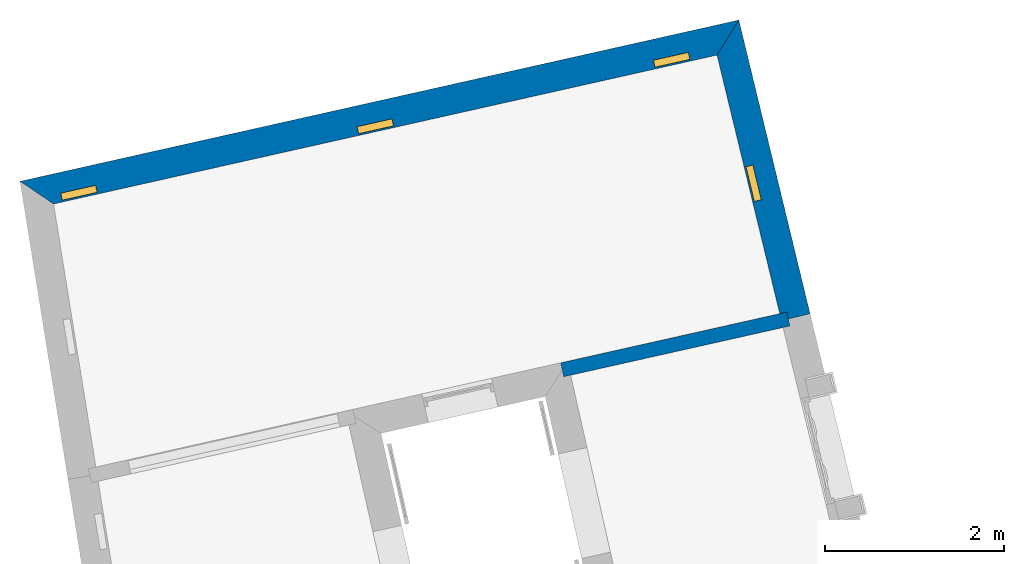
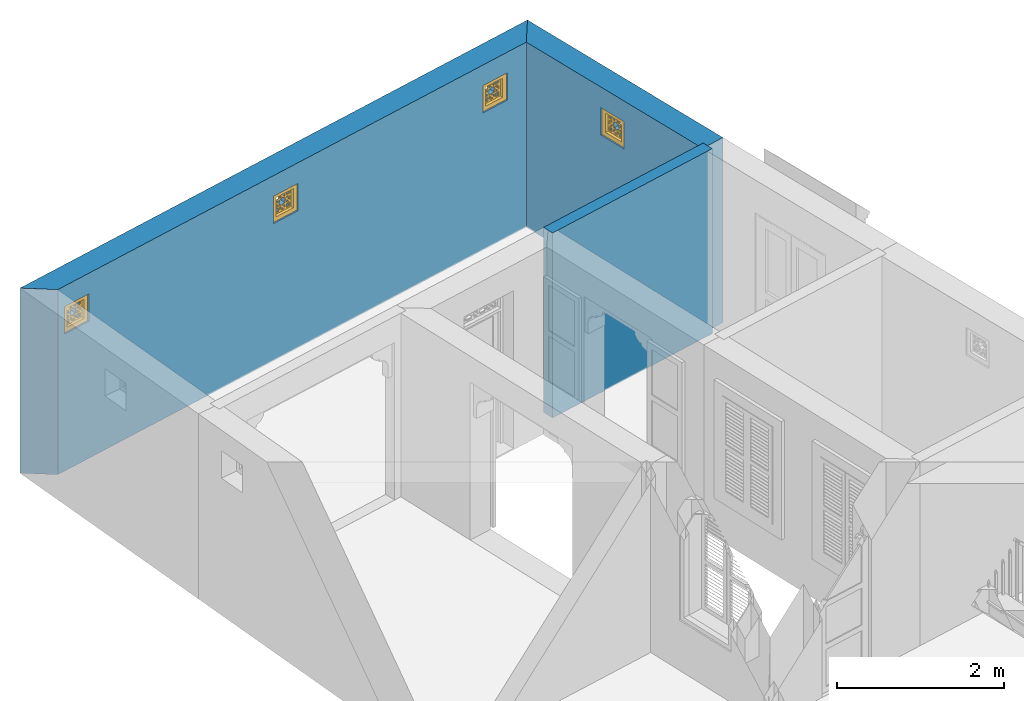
# One storey, part 12 of 13: 4 windows, 3 walls, 4 openings.
"""IFC4 building model written with IfcOpenShell, lengths in metres."""

from ifc_helpers import new_model, si_unit, frame, origin, origin_with_axes, place, context, subcontext, project, spatial, polyline, outline, extrude, faceted_brep, source, transform, mapped, material, layer, layer_set, layer_usage, type_object, type_shapes, element, fill, save


model = new_model("IFC4")

# Units and contexts
model_context = context("Model", 3, world=origin_with_axes())
body_context = subcontext(model_context, "Body", "Model", "MODEL_VIEW")
ifc_project = project(units=[si_unit("PLANEANGLEUNIT", "RADIAN"), si_unit("MASSUNIT", "GRAM", prefix="KILO"), si_unit("FORCEUNIT", "NEWTON", prefix="KILO"), si_unit("LENGTHUNIT", "METRE"), si_unit("AREAUNIT", "SQUARE_METRE"), si_unit("VOLUMEUNIT", "CUBIC_METRE")], contexts=[model_context, model_context])

# Site, building, storey
site_placement = place(None, origin_with_axes())
site = spatial("IfcSite", under=ifc_project, at=site_placement, Name="Site plot-10", CompositionType="ELEMENT")
building_placement = place(None, origin_with_axes())
building = spatial("IfcBuilding", under=site, at=building_placement, Name="Building plot-10", CompositionType="ELEMENT")
storey_placement = place(None, origin_with_axes())
storey = spatial("IfcBuildingStorey", under=building, at=storey_placement, Name="plot-10 0", CompositionType="ELEMENT", Elevation=0.0)

# Wall, opening, window
ifc_material_1 = material(Name="Masonry")
ifc_layer_1 = layer(ifc_material_1, 0.33, ventilated=False)
ifc_layer_set_1 = layer_set([ifc_layer_1], Name="exterior_0.08_0.25")
ifc_layer_usage_1 = layer_usage(ifc_layer_set_1, "AXIS2", "POSITIVE", -0.25)
wall_type_1 = type_object("IfcWallType", Name="exterior_0.08_0.25", PredefinedType="SOLIDWALL", material=ifc_layer_set_1)
wall_1_placement = place(storey_placement, frame((-16.6872846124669, 18.2683380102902, 0.0), z_axis=(0.0, 0.0, 1.0), x_axis=(-0.235675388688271, 0.9718318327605, 0.0)))
wall_1 = element("IfcWall", 1, at=wall_1_placement, inside=storey, type_object=wall_type_1, material=ifc_layer_usage_1, Name="exterior", context=body_context, shape_type="SweptSolid", body=[
    extrude(outline(polyline([(1.76349185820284e-15, 0.0800000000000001), (-1.70553760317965e-15, -0.25), (3.38324971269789, -0.249999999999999), (3.0588775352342, 0.0800000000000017), (1.76349185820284e-15, 0.0800000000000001)])), origin_with_axes(), (0.0, 0.0, 1.0), 2.7),
])
opening_1_placement = place(wall_1_placement, frame((1.36875660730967, 0.0, 2.0)))
opening_1 = element("IfcOpeningElement", 2, at=opening_1_placement, cuts=wall_1, Name="My Opening", ObjectType="Opening", context=body_context, shape_type="SweptSolid", body=[
    extrude(outline(polyline([(0.0, -0.270000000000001), (0.399999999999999, -0.270000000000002), (0.399999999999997, 1.1), (-1.77635683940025e-15, 1.1), (0.0, -0.270000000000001)])), origin_with_axes(), (0.0, 0.0, 1.0), 0.4),
])
window_type = type_object("IfcWindowType", Name="barred_window", PartitioningType="DOUBLE_PANEL_HORIZONTAL", PredefinedType="NOTDEFINED")
shared_shape = source(origin(), body_context, "Body", "Brep", [
    faceted_brep([(0.4, 0.25, 0.4), (0.0, 0.25, 0.4), (0.06, 0.25, 0.34), (0.34, 0.25, 0.34), (0.06, 0.33, 0.34), (0.34, 0.33, 0.34), (0.34, 0.25, 0.06), (0.4, 0.25, 0.0), (0.4, 0.33, 0.4), (0.0, 0.33, 0.4), (0.0, 0.25, 0.0), (0.06, 0.25, 0.06), (0.06, 0.33, 0.06), (0.34, 0.33, 0.06), (0.4, 0.33, 0.0), (0.0, 0.33, 0.0), (0.136152, 0.28, 0.08), (0.08, 0.28, 0.08), (0.06, 0.28, 0.06), (0.136152, 0.28, 0.06), (0.136152, 0.29, 0.08), (0.08, 0.29, 0.08), (0.06, 0.28, 0.136152), (0.08, 0.28, 0.136152), (0.06, 0.29, 0.06), (0.136152, 0.29, 0.06), (0.170294, 0.28, 0.08), (0.170294, 0.28, 0.06), (0.136152, 0.28, 0.136152), (0.136152, 0.29, 0.136152), (0.08, 0.29, 0.136152), (0.06, 0.29, 0.136152), (0.08, 0.28, 0.170294), (0.06, 0.28, 0.170294), (0.170294, 0.29, 0.06), (0.229706, 0.28, 0.08), (0.229706, 0.28, 0.06), (0.156152, 0.28, 0.094142), (0.156152, 0.28, 0.136152), (0.185858, 0.28, 0.123848), (0.185858, 0.29, 0.123848), (0.156152, 0.29, 0.094142), (0.156152, 0.29, 0.136152), (0.229706, 0.29, 0.08), (0.170294, 0.29, 0.08), (0.2, 0.28, 0.109706), (0.2, 0.29, 0.109706), (0.06, 0.29, 0.170294), (0.094142, 0.28, 0.156152), (0.08, 0.28, 0.229706), (0.06, 0.28, 0.229706), (0.229706, 0.29, 0.06), (0.263848, 0.28, 0.08), (0.263848, 0.28, 0.06), (0.156152, 0.28, 0.156152), (0.136152, 0.28, 0.156152), (0.173553, 0.28, 0.136152), (0.173553, 0.29, 0.136152), (0.156152, 0.29, 0.156152), (0.136152, 0.29, 0.156152), (0.094142, 0.29, 0.156152), (0.08, 0.29, 0.170294), (0.06, 0.29, 0.229706), (0.123848, 0.28, 0.185858), (0.109706, 0.28, 0.2), (0.08, 0.29, 0.229706), (0.08, 0.28, 0.263848), (0.06, 0.28, 0.263848), (0.263848, 0.29, 0.06), (0.2, 0.28, 0.13799), (0.214142, 0.28, 0.123848), (0.34, 0.28, 0.06), (0.32, 0.28, 0.08), (0.181838, 0.28, 0.156152), (0.136152, 0.28, 0.173553), (0.156152, 0.28, 0.181838), (0.181838, 0.29, 0.156152), (0.2, 0.29, 0.13799), (0.214142, 0.29, 0.123848), (0.136152, 0.29, 0.173553), (0.156152, 0.29, 0.181838), (0.243848, 0.28, 0.094142), (0.243848, 0.29, 0.094142), (0.263848, 0.28, 0.136152), (0.263848, 0.29, 0.08), (0.263848, 0.29, 0.136152), (0.32, 0.29, 0.08), (0.243848, 0.28, 0.136152), (0.243848, 0.29, 0.136152), (0.06, 0.29, 0.263848), (0.123848, 0.29, 0.185858), (0.13799, 0.28, 0.2), (0.123848, 0.28, 0.214142), (0.109706, 0.29, 0.2), (0.094142, 0.28, 0.243848), (0.08, 0.28, 0.32), (0.06, 0.28, 0.34), (0.34, 0.29, 0.06), (0.218162, 0.28, 0.156152), (0.226447, 0.28, 0.136152), (0.34, 0.28, 0.229706), (0.32, 0.28, 0.229706), (0.32, 0.28, 0.170294), (0.32, 0.28, 0.136152), (0.218162, 0.29, 0.156152), (0.226447, 0.29, 0.136152), (0.13799, 0.29, 0.2), (0.32, 0.29, 0.136152), (0.08, 0.29, 0.263848), (0.06, 0.29, 0.34), (0.136152, 0.28, 0.226447), (0.156152, 0.28, 0.218162), (0.094142, 0.29, 0.243848), (0.123848, 0.29, 0.214142), (0.136152, 0.28, 0.243848), (0.136152, 0.28, 0.263848), (0.08, 0.29, 0.32), (0.136152, 0.28, 0.34), (0.136152, 0.28, 0.32), (0.34, 0.29, 0.229706), (0.243848, 0.28, 0.156152), (0.263848, 0.28, 0.156152), (0.34, 0.28, 0.263848), (0.32, 0.28, 0.263848), (0.32, 0.29, 0.229706), (0.32, 0.29, 0.170294), (0.290294, 0.28, 0.2), (0.276152, 0.28, 0.185858), (0.305858, 0.28, 0.156152), (0.243848, 0.29, 0.156152), (0.263848, 0.29, 0.156152), (0.305858, 0.29, 0.156152), (0.276152, 0.29, 0.185858), (0.290294, 0.29, 0.2), (0.136152, 0.29, 0.34), (0.136152, 0.29, 0.226447), (0.156152, 0.29, 0.218162), (0.156152, 0.28, 0.243848), (0.136152, 0.29, 0.243848), (0.156152, 0.28, 0.263848), (0.136152, 0.29, 0.263848), (0.136152, 0.29, 0.32), (0.170294, 0.28, 0.32), (0.170294, 0.28, 0.34), (0.34, 0.29, 0.263848), (0.243848, 0.28, 0.181838), (0.263848, 0.28, 0.173553), (0.34, 0.28, 0.34), (0.32, 0.28, 0.32), (0.305858, 0.28, 0.243848), (0.276152, 0.28, 0.214142), (0.26201, 0.28, 0.2), (0.243848, 0.29, 0.181838), (0.263848, 0.29, 0.173553), (0.26201, 0.29, 0.2), (0.276152, 0.29, 0.214142), (0.32, 0.29, 0.263848), (0.170294, 0.29, 0.34), (0.156152, 0.29, 0.243848), (0.173553, 0.28, 0.263848), (0.181838, 0.28, 0.243848), (0.156152, 0.28, 0.305858), (0.229706, 0.28, 0.32), (0.229706, 0.28, 0.34), (0.34, 0.29, 0.34), (0.263848, 0.28, 0.34), (0.263848, 0.28, 0.32), (0.32, 0.29, 0.32), (0.263848, 0.28, 0.263848), (0.263848, 0.28, 0.243848), (0.305858, 0.29, 0.243848), (0.263848, 0.28, 0.226447), (0.243848, 0.28, 0.218162), (0.243848, 0.29, 0.218162), (0.263848, 0.29, 0.226447), (0.156152, 0.29, 0.263848), (0.170294, 0.29, 0.32), (0.229706, 0.29, 0.34), (0.181838, 0.29, 0.243848), (0.173553, 0.29, 0.263848), (0.185858, 0.28, 0.276152), (0.2, 0.28, 0.26201), (0.156152, 0.29, 0.305858), (0.229706, 0.29, 0.32), (0.263848, 0.29, 0.34), (0.263848, 0.29, 0.32), (0.263848, 0.29, 0.263848), (0.243848, 0.28, 0.243848), (0.243848, 0.28, 0.263848), (0.263848, 0.29, 0.243848), (0.243848, 0.29, 0.243848), (0.2, 0.29, 0.26201), (0.185858, 0.29, 0.276152), (0.214142, 0.28, 0.276152), (0.218162, 0.28, 0.243848), (0.226447, 0.28, 0.263848), (0.243848, 0.28, 0.305858), (0.2, 0.28, 0.290294), (0.2, 0.29, 0.290294), (0.243848, 0.29, 0.263848), (0.218162, 0.29, 0.243848), (0.214142, 0.29, 0.276152), (0.226447, 0.29, 0.263848), (0.243848, 0.29, 0.305858)], [[[0, 1, 2, 3]], [[3, 2, 4, 5]], [[3, 6, 7, 0]], [[1, 0, 8, 9]], [[1, 10, 11, 2]], [[2, 11, 12, 4]], [[9, 8, 5, 4]], [[6, 3, 5, 13]], [[6, 11, 10, 7]], [[0, 7, 14, 8]], [[10, 1, 9, 15]], [[11, 6, 13, 12]], [[4, 12, 15, 9]], [[8, 14, 13, 5]], [[7, 10, 15, 14]], [[12, 13, 14, 15]], [[16, 17, 18, 19]], [[17, 16, 20, 21]], [[22, 18, 17, 23]], [[19, 18, 24, 25]], [[26, 16, 19, 27]], [[16, 28, 29, 20]], [[21, 20, 25, 24]], [[23, 17, 21, 30]], [[18, 22, 31, 24]], [[23, 32, 33, 22]], [[27, 19, 25, 34]], [[35, 26, 27, 36]], [[28, 16, 37, 38]], [[37, 39, 40, 41]], [[38, 37, 41, 42]], [[20, 29, 42, 41]], [[26, 35, 43, 44]], [[45, 26, 44, 46]], [[20, 44, 34, 25]], [[28, 23, 30, 29]], [[24, 31, 30, 21]], [[22, 33, 47, 31]], [[48, 32, 23]], [[32, 49, 50, 33]], [[36, 27, 34, 51]], [[39, 37, 26, 45]], [[52, 35, 36, 53]], [[38, 54, 55, 28]], [[39, 56, 57, 40]], [[41, 40, 46, 44]], [[56, 38, 42, 57]], [[58, 42, 29, 59]], [[35, 45, 46, 43]], [[44, 43, 51, 34]], [[23, 28, 55, 48]], [[29, 30, 60, 59]], [[61, 30, 31, 47]], [[33, 50, 62, 47]], [[48, 63, 64, 32]], [[49, 32, 61, 65]], [[49, 66, 67, 50]], [[53, 36, 51, 68]], [[69, 39, 45, 70]], [[53, 71, 72, 52]], [[73, 54, 38, 56]], [[74, 55, 54, 75]], [[56, 39, 69, 73]], [[40, 57, 76, 77]], [[40, 77, 78, 46]], [[58, 76, 57, 42]], [[59, 79, 80, 58]], [[45, 35, 81, 70]], [[43, 46, 78, 82]], [[83, 52, 84, 85]], [[82, 84, 43]], [[52, 72, 86, 84]], [[43, 84, 68, 51]], [[44, 20, 41]], [[70, 81, 82, 78]], [[81, 87, 88, 82]], [[48, 55, 59, 60]], [[61, 60, 30]], [[65, 61, 47, 62]], [[50, 67, 89, 62]], [[63, 48, 60, 90]], [[63, 91, 92, 64]], [[32, 64, 93, 61]], [[64, 49, 65, 93]], [[94, 66, 49]], [[66, 95, 96, 67]], [[71, 53, 68, 97]], [[98, 69, 70, 99]], [[81, 52, 83, 87]], [[72, 71, 100]], [[100, 101, 102]], [[103, 72, 100]], [[100, 102, 103]], [[54, 73, 76, 58]], [[55, 74, 79, 59]], [[75, 54, 58, 80]], [[63, 74, 75, 91]], [[73, 69, 77, 76]], [[77, 104, 105, 78]], [[79, 90, 106, 80]], [[84, 82, 88, 85]], [[103, 83, 85, 107]], [[72, 103, 107, 86]], [[97, 68, 84, 86]], [[99, 70, 78, 105]], [[87, 99, 105, 88]], [[90, 60, 61, 93]], [[108, 65, 62, 89]], [[67, 96, 109, 89]], [[74, 63, 90, 79]], [[110, 92, 91, 111]], [[49, 64, 92, 94]], [[93, 65, 112, 113]], [[94, 114, 115, 66]], [[95, 66, 108, 116]], [[117, 96, 95, 118]], [[100, 71, 97, 119]], [[69, 98, 104, 77]], [[99, 87, 120, 98]], [[87, 83, 121, 120]], [[101, 100, 122, 123]], [[102, 101, 124, 125]], [[121, 83, 103]], [[103, 102, 126]], [[126, 127, 128]], [[128, 121, 103]], [[103, 126, 128]], [[91, 75, 80, 106]], [[88, 105, 104, 129]], [[106, 90, 93, 113]], [[85, 88, 129, 130]], [[107, 85, 130]], [[131, 132, 133]], [[107, 130, 131]], [[133, 125, 107]], [[107, 131, 133]], [[124, 119, 97]], [[97, 86, 107]], [[107, 125, 124]], [[97, 107, 124]], [[108, 112, 65]], [[116, 108, 89, 109]], [[96, 117, 134, 109]], [[92, 110, 135, 113]], [[111, 91, 106, 136]], [[114, 110, 111, 137]], [[94, 92, 113, 112]], [[114, 94, 112, 138]], [[114, 137, 139, 115]], [[66, 115, 140, 108]], [[118, 95, 116, 141]], [[118, 142, 143, 117]], [[122, 100, 119, 144]], [[98, 120, 129, 104]], [[145, 120, 121, 146]], [[122, 147, 148, 123]], [[123, 149, 101]], [[101, 126, 133, 124]], [[126, 102, 125, 133]], [[127, 126, 150, 151]], [[128, 127, 132, 131]], [[121, 128, 131, 130]], [[113, 135, 136, 106]], [[129, 152, 153, 130]], [[133, 132, 154, 155]], [[119, 124, 156, 144]], [[138, 112, 108, 140]], [[109, 134, 141, 116]], [[117, 143, 157, 134]], [[110, 114, 138, 135]], [[137, 111, 136, 158]], [[159, 139, 137, 160]], [[118, 115, 139, 161]], [[115, 118, 141, 140]], [[161, 142, 118]], [[162, 163, 143, 142]], [[147, 122, 144, 164]], [[120, 145, 152, 129]], [[146, 121, 130, 153]], [[146, 127, 151, 145]], [[147, 165, 166, 148]], [[123, 148, 167, 156]], [[149, 123, 168, 169]], [[149, 150, 126, 101]], [[155, 170, 124, 133]], [[151, 150, 171, 172]], [[127, 146, 153, 132]], [[135, 138, 158, 136]], [[132, 153, 152, 154]], [[155, 154, 173, 174]], [[170, 156, 124]], [[164, 144, 156, 167]], [[158, 138, 140, 175]], [[176, 141, 134, 157]], [[143, 163, 177, 157]], [[160, 137, 158, 178]], [[139, 159, 179, 175]], [[180, 159, 160, 181]], [[161, 139, 175, 182]], [[140, 141, 182, 175]], [[166, 165, 163, 162]], [[162, 142, 176, 183]], [[165, 147, 164, 184]], [[145, 151, 154, 152]], [[148, 166, 185, 167]], [[156, 186, 168, 123]], [[187, 169, 168, 188]], [[149, 169, 189, 170]], [[150, 149, 170, 155]], [[171, 150, 155, 174]], [[171, 169, 187, 172]], [[151, 172, 173, 154]], [[189, 174, 173, 190]], [[156, 170, 189, 186]], [[184, 164, 167, 185]], [[175, 179, 178, 158]], [[176, 182, 141]], [[177, 183, 176, 157]], [[163, 165, 184, 177]], [[181, 160, 178, 191]], [[159, 180, 192, 179]], [[180, 161, 182, 192]], [[193, 181, 194, 195]], [[196, 162, 197, 193]], [[180, 197, 142, 161]], [[197, 180, 181, 193]], [[142, 197, 198, 176]], [[162, 196, 166]], [[35, 52, 81]], [[197, 162, 183, 198]], [[185, 166, 168, 186]], [[196, 188, 168, 166]], [[187, 188, 195, 194]], [[169, 171, 174, 189]], [[172, 187, 190, 173]], [[189, 190, 199, 186]], [[184, 185, 183, 177]], [[179, 192, 191, 178]], [[176, 198, 192, 182]], [[194, 181, 191, 200]], [[191, 192, 198, 201]], [[26, 37, 16]], [[193, 195, 202, 201]], [[196, 193, 201, 203]], [[191, 201, 202, 200]], [[183, 203, 201, 198]], [[188, 196, 203, 199]], [[203, 183, 185]], [[199, 203, 185, 186]], [[195, 188, 199, 202]], [[187, 194, 200, 190]], [[199, 190, 200, 202]]]),
])
type_shapes(window_type, [shared_shape])
window_1_placement = place(storey_placement, frame((-16.7474722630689, 19.6621716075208, 2.0), z_axis=(0.0, 0.0, 1.0), x_axis=(-0.0942701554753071, 0.388732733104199, 0.0)))
window_1 = element("IfcWindow", 3, at=window_1_placement, inside=storey, type_object=window_type, Name="living street window", OverallHeight=0.4, OverallWidth=0.4, context=body_context, shape_type="MappedRepresentation", body=[
    mapped(shared_shape, transform((0.0, 0.0, 0.0), scale=1.0)),
])
fill(opening_1, window_1)

# Wall, openings, windows
wall_2_placement = place(storey_placement, frame((-17.4267192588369, 21.317473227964, 0.0), z_axis=(0.0, 0.0, 1.0), x_axis=(-0.975741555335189, -0.218925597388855, 0.0)))
wall_2 = element("IfcWall", 4, at=wall_2_placement, inside=storey, type_object=wall_type_1, material=ifc_layer_usage_1, Name="exterior", context=body_context, shape_type="SweptSolid", body=[
    extrude(outline(polyline([(0.0786356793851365, 0.0800000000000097), (-0.245736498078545, -0.250000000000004), (8.00009198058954, -0.25), (7.6896930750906, 0.0799999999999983), (0.0786356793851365, 0.0800000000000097)])), origin_with_axes(), (0.0, 0.0, 1.0), 2.7),
])
opening_2_placement = place(wall_2_placement, frame((0.3849412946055, 0.0, 2.0)))
opening_2 = element("IfcOpeningElement", 5, at=opening_2_placement, cuts=wall_2, Name="My Opening", ObjectType="Opening", context=body_context, shape_type="SweptSolid", body=[
    extrude(outline(polyline([(0.0, -0.27), (0.400000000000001, -0.270000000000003), (0.399999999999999, 1.1), (-1.94289029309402e-15, 1.1), (0.0, -0.27)])), origin_with_axes(), (0.0, 0.0, 1.0), 0.4),
])
opening_3_placement = place(wall_2_placement, frame((3.7849412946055, 0.0, 2.0)))
opening_3 = element("IfcOpeningElement", 6, at=opening_3_placement, cuts=wall_2, Name="My Opening", ObjectType="Opening", context=body_context, shape_type="SweptSolid", body=[
    extrude(outline(polyline([(0.0, -0.270000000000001), (0.4, -0.270000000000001), (0.399999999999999, 1.1), (-2.66453525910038e-15, 1.1), (0.0, -0.270000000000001)])), origin_with_axes(), (0.0, 0.0, 1.0), 0.4),
])
opening_4_placement = place(wall_2_placement, frame((7.1849412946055, 0.0, 2.0)))
opening_4 = element("IfcOpeningElement", 7, at=opening_4_placement, cuts=wall_2, Name="My Opening", ObjectType="Opening", context=body_context, shape_type="SweptSolid", body=[
    extrude(outline(polyline([(0.0, -0.270000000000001), (0.400000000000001, -0.270000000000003), (0.399999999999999, 1.1), (-1.77635683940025e-15, 1.1), (0.0, -0.270000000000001)])), origin_with_axes(), (0.0, 0.0, 1.0), 0.4),
])
window_2_placement = place(storey_placement, frame((-17.861432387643, 21.4966499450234, 2.0), z_axis=(0.0, 0.0, 1.0), x_axis=(-0.390296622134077, -0.0875702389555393, 0.0)))
window_2 = element("IfcWindow", 8, at=window_2_placement, inside=storey, type_object=window_type, Name="living street window", OverallHeight=0.4, OverallWidth=0.4, context=body_context, shape_type="MappedRepresentation", body=[
    mapped(shared_shape, transform((0.0, 0.0, 0.0), scale=1.0)),
])
fill(opening_2, window_2)
window_3_placement = place(storey_placement, frame((-21.1789536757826, 20.7523029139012, 2.0), z_axis=(0.0, 0.0, 1.0), x_axis=(-0.390296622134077, -0.0875702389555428, 0.0)))
window_3 = element("IfcWindow", 9, at=window_3_placement, inside=storey, type_object=window_type, Name="living street window", OverallHeight=0.4, OverallWidth=0.4, context=body_context, shape_type="MappedRepresentation", body=[
    mapped(shared_shape, transform((0.0, 0.0, 0.0), scale=1.0)),
])
fill(opening_3, window_3)
window_4_placement = place(storey_placement, frame((-24.4964749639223, 20.0079558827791, 2.0), z_axis=(0.0, 0.0, 1.0), x_axis=(-0.390296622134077, -0.0875702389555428, 0.0)))
window_4 = element("IfcWindow", 10, at=window_4_placement, inside=storey, type_object=window_type, Name="living street window", OverallHeight=0.4, OverallWidth=0.4, context=body_context, shape_type="MappedRepresentation", body=[
    mapped(shared_shape, transform((0.0, 0.0, 0.0), scale=1.0)),
])
fill(opening_4, window_4)

# Wall
ifc_material_2 = material(Name="Masonry")
ifc_layer_2 = layer(ifc_material_2, 0.16, ventilated=False)
ifc_layer_set_2 = layer_set([ifc_layer_2], Name="interior_0.08_0.08")
ifc_layer_usage_2 = layer_usage(ifc_layer_set_2, "AXIS2", "POSITIVE", -0.08)
wall_type_2 = type_object("IfcWallType", Name="interior_0.08_0.08", PredefinedType="SOLIDWALL", material=ifc_layer_set_2)
wall_3_placement = place(storey_placement, frame((-16.6872846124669, 18.2683380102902, 0.0), z_axis=(0.0, 0.0, 1.0), x_axis=(-0.975741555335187, -0.218925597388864, 0.0)))
element("IfcWall", 11, at=wall_3_placement, inside=storey, type_object=wall_type_2, material=ifc_layer_usage_2, Name="interior", context=body_context, shape_type="SweptSolid", body=[
    extrude(outline(polyline([(-1.08050986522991e-15, 0.0799999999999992), (1.08847625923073e-15, -0.0799999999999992), (2.59506134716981, -0.0799999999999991), (2.59506134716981, 0.079999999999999), (-1.08050986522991e-15, 0.0799999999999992)])), origin_with_axes(), (0.0, 0.0, 1.0), 2.7),
])

save(model, "model.ifc")
